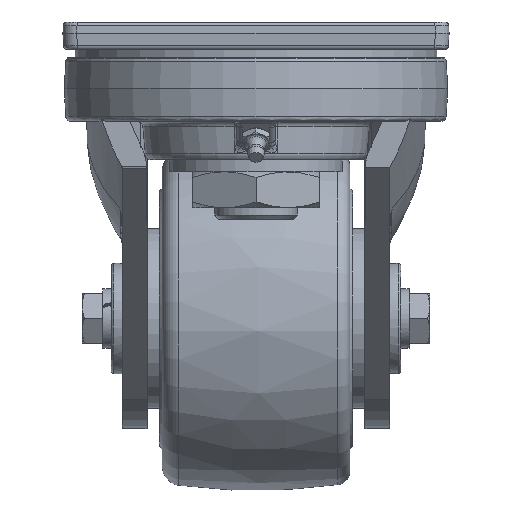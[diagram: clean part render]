
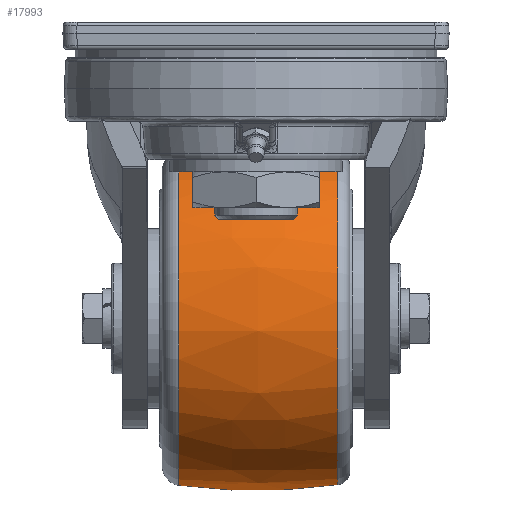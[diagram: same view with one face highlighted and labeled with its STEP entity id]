
A CAD part, left-side view. The second image highlights one B-rep face of the part: STEP entity #17993.
In plain terms, the highlighted free-form (B-spline) face has degree [2, 2] with [3, 9] control points.
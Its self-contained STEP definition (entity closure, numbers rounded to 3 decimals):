
#16=(
BOUNDED_SURFACE()
B_SPLINE_SURFACE(2,2,((#32156,#32157,#32158,#32159,#32160,#32161,#32162,
#32163,#32164),(#32165,#32166,#32167,#32168,#32169,#32170,#32171,#32172,
#32173),(#32174,#32175,#32176,#32177,#32178,#32179,#32180,#32181,#32182)),
 .UNSPECIFIED.,.F.,.T.,.F.)
B_SPLINE_SURFACE_WITH_KNOTS((3,3),(3,2,2,2,3),(-0.142,0.133),
(-3.142,-1.571,0.,1.571,3.142),
 .UNSPECIFIED.)
GEOMETRIC_REPRESENTATION_ITEM()
RATIONAL_B_SPLINE_SURFACE(((1.,0.707,1.,0.707,1.,
0.707,1.,0.707,1.),(0.991,0.7,
0.991,0.7,0.991,0.7,
0.991,0.7,0.991),(1.,0.707,
1.,0.707,1.,0.707,1.,0.707,1.)))
REPRESENTATION_ITEM('')
SURFACE()
);
#1561=CIRCLE('',#18979,60.634);
#1562=CIRCLE('',#18980,60.634);
#1563=CIRCLE('',#18981,210.);
#1564=CIRCLE('',#18982,60.388);
#1565=CIRCLE('',#18983,60.388);
#2685=FACE_OUTER_BOUND('',#3752,.T.);
#3752=EDGE_LOOP('',(#16462,#16463,#16464,#16465,#16466,#16467));
#8579=VERTEX_POINT('',#32151);
#8580=VERTEX_POINT('',#32153);
#8581=VERTEX_POINT('',#32183);
#8582=VERTEX_POINT('',#32185);
#11222=EDGE_CURVE('',#8579,#8580,#1561,.T.);
#11223=EDGE_CURVE('',#8580,#8579,#1562,.T.);
#11224=EDGE_CURVE('',#8579,#8581,#1563,.T.);
#11225=EDGE_CURVE('',#8581,#8582,#1564,.T.);
#11226=EDGE_CURVE('',#8582,#8581,#1565,.T.);
#16462=ORIENTED_EDGE('',*,*,#11223,.F.);
#16463=ORIENTED_EDGE('',*,*,#11222,.F.);
#16464=ORIENTED_EDGE('',*,*,#11224,.T.);
#16465=ORIENTED_EDGE('',*,*,#11225,.T.);
#16466=ORIENTED_EDGE('',*,*,#11226,.T.);
#16467=ORIENTED_EDGE('',*,*,#11224,.F.);
#17993=ADVANCED_FACE('',(#2685),#16,.F.);
#18979=AXIS2_PLACEMENT_3D('',#32154,#22443,#22444);
#18980=AXIS2_PLACEMENT_3D('',#32155,#22445,#22446);
#18981=AXIS2_PLACEMENT_3D('',#32184,#22447,#22448);
#18982=AXIS2_PLACEMENT_3D('',#32186,#22449,#22450);
#18983=AXIS2_PLACEMENT_3D('',#32187,#22451,#22452);
#22443=DIRECTION('center_axis',(0.,1.,0.));
#22444=DIRECTION('ref_axis',(-0.072,0.,
0.997));
#22445=DIRECTION('center_axis',(0.,1.,0.));
#22446=DIRECTION('ref_axis',(-0.072,0.,
0.997));
#22447=DIRECTION('center_axis',(-0.997,0.,
-0.072));
#22448=DIRECTION('ref_axis',(0.072,0.,-0.997));
#22449=DIRECTION('center_axis',(0.,1.,0.));
#22450=DIRECTION('ref_axis',(-0.072,0.,
0.997));
#22451=DIRECTION('center_axis',(0.,1.,0.));
#22452=DIRECTION('ref_axis',(-0.072,0.,
0.997));
#32151=CARTESIAN_POINT('',(81.881,27.931,-154.976));
#32153=CARTESIAN_POINT('',(137.976,27.931,-90.119));
#32154=CARTESIAN_POINT('Origin',(77.5,27.931,-94.5));
#32155=CARTESIAN_POINT('Origin',(77.5,27.931,-94.5));
#32156=CARTESIAN_POINT('Ctrl Pts',(81.863,-29.707,-154.73));
#32157=CARTESIAN_POINT('Ctrl Pts',(21.633,-29.707,-159.094));
#32158=CARTESIAN_POINT('Ctrl Pts',(17.27,-29.707,-98.863));
#32159=CARTESIAN_POINT('Ctrl Pts',(12.906,-29.707,-38.633));
#32160=CARTESIAN_POINT('Ctrl Pts',(73.137,-29.707,-34.27));
#32161=CARTESIAN_POINT('Ctrl Pts',(133.367,-29.707,-29.906));
#32162=CARTESIAN_POINT('Ctrl Pts',(137.73,-29.707,-90.137));
#32163=CARTESIAN_POINT('Ctrl Pts',(142.094,-29.707,-150.367));
#32164=CARTESIAN_POINT('Ctrl Pts',(81.863,-29.707,-154.73));
#32165=CARTESIAN_POINT('Ctrl Pts',(82.161,-0.905,
-158.835));
#32166=CARTESIAN_POINT('Ctrl Pts',(17.825,-0.905,
-163.496));
#32167=CARTESIAN_POINT('Ctrl Pts',(13.165,-0.905,
-99.161));
#32168=CARTESIAN_POINT('Ctrl Pts',(8.504,-0.905,-34.825));
#32169=CARTESIAN_POINT('Ctrl Pts',(72.839,-0.905,-30.165));
#32170=CARTESIAN_POINT('Ctrl Pts',(137.175,-0.905,
-25.504));
#32171=CARTESIAN_POINT('Ctrl Pts',(141.835,-0.905,
-89.839));
#32172=CARTESIAN_POINT('Ctrl Pts',(146.496,-0.905,
-154.175));
#32173=CARTESIAN_POINT('Ctrl Pts',(82.161,-0.905,
-158.835));
#32174=CARTESIAN_POINT('Ctrl Pts',(81.881,27.931,-154.976));
#32175=CARTESIAN_POINT('Ctrl Pts',(21.405,27.931,-159.357));
#32176=CARTESIAN_POINT('Ctrl Pts',(17.024,27.931,-98.881));
#32177=CARTESIAN_POINT('Ctrl Pts',(12.643,27.931,-38.405));
#32178=CARTESIAN_POINT('Ctrl Pts',(73.119,27.931,-34.024));
#32179=CARTESIAN_POINT('Ctrl Pts',(133.595,27.931,-29.643));
#32180=CARTESIAN_POINT('Ctrl Pts',(137.976,27.931,-90.119));
#32181=CARTESIAN_POINT('Ctrl Pts',(142.357,27.931,-150.595));
#32182=CARTESIAN_POINT('Ctrl Pts',(81.881,27.931,-154.976));
#32183=CARTESIAN_POINT('',(81.863,-29.707,-154.73));
#32184=CARTESIAN_POINT('Origin',(66.842,0.,
52.614));
#32185=CARTESIAN_POINT('',(137.73,-29.707,-90.137));
#32186=CARTESIAN_POINT('Origin',(77.5,-29.707,-94.5));
#32187=CARTESIAN_POINT('Origin',(77.5,-29.707,-94.5));
